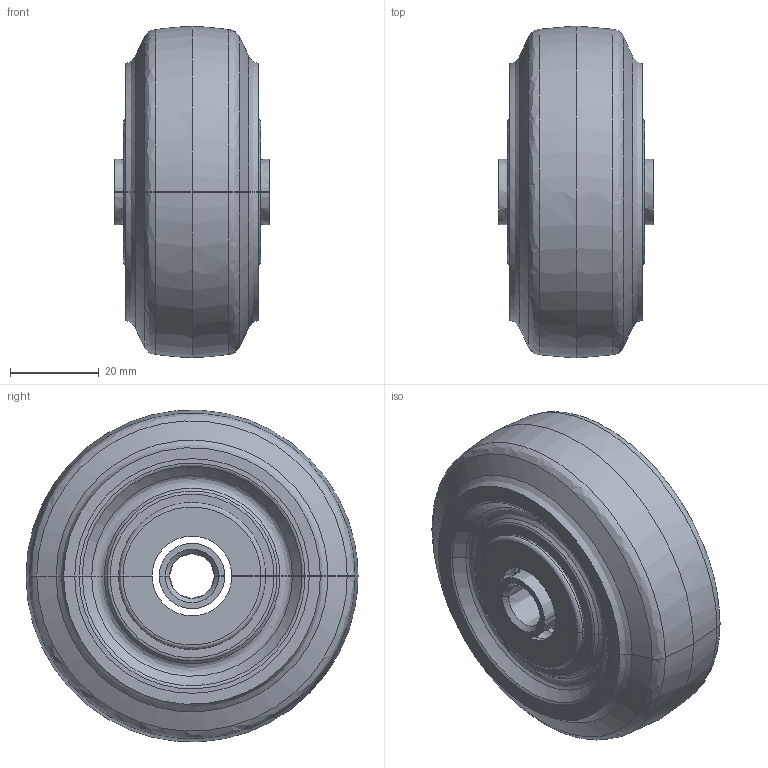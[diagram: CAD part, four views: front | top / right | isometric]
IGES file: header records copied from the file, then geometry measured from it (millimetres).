
Start section: JAMA-IS VERSION  1.0
Global section: file name: E:\tools-models\その他メーカー2\INOAC車輪\3月\GR-75W\GR-75W-3D_220330\GR-75W-3D-igs.igs; native system: CAM-TOOL; preprocessor: C3out Version 11.1.1.50212 (2015/02/12); author: NONE; organization: NONE; date: 220330.120537; units: millimetre
Bounding box: 35 x 75 x 74.9 mm (x, y, z)
Surface area: 46215.8 mm2 (no closed solid volume)
Topology: 0 solids, 0 shells, 254 faces, 1417 edges, 1804 vertices
Faces by surface type: bspline 254
